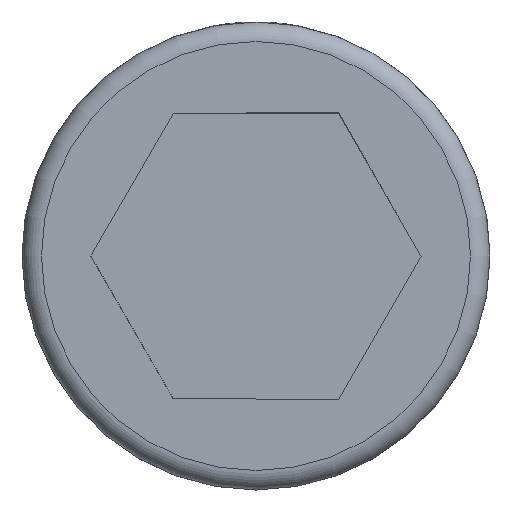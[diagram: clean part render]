
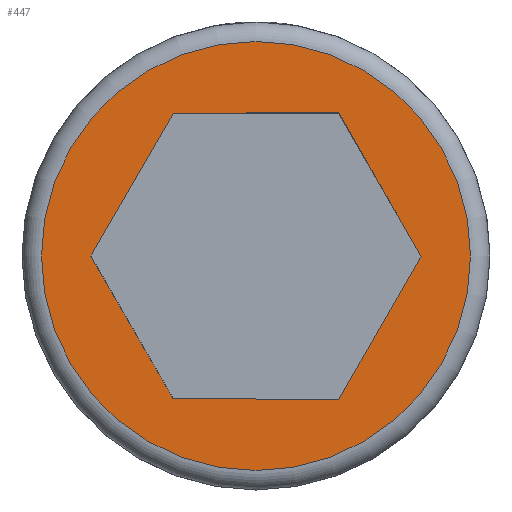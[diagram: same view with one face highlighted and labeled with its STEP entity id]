
A CAD part, left-side view. The second image highlights one B-rep face of the part: STEP entity #447.
In plain terms, the highlighted planar face has unit normal (-1, 0, 0).
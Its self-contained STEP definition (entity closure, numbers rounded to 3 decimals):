
#377=CARTESIAN_POINT('',(130.0,0.,16.5));
#378=VERTEX_POINT('',#377);
#379=CARTESIAN_POINT('',(130.0,0.0,0.0));
#380=DIRECTION('',(1.0,0.0,0.0));
#381=DIRECTION('',(0.0,0.0,-1.0));
#382=AXIS2_PLACEMENT_3D('',#379,#380,#381);
#383=CIRCLE('',#382,16.5);
#384=EDGE_CURVE('',#378,#378,#383,.T.);
#389=CARTESIAN_POINT('',(130.0,0.0,9.));
#390=DIRECTION('',(-1.0,0.0,0.0));
#391=DIRECTION('',(0.0,0.0,1.0));
#392=AXIS2_PLACEMENT_3D('',#389,#390,#391);
#393=PLANE('',#392);
#394=ORIENTED_EDGE('',*,*,#384,.F.);
#395=EDGE_LOOP('',(#394));
#396=FACE_OUTER_BOUND('',#395,.T.);
#397=CARTESIAN_POINT('',(130.0,-6.351,-11.0));
#398=VERTEX_POINT('',#397);
#399=CARTESIAN_POINT('',(130.0,6.351,-11.));
#400=VERTEX_POINT('',#399);
#401=CARTESIAN_POINT('',(130.0,-6.351,-11.0));
#402=DIRECTION('',(0.0,1.0,0.0));
#403=VECTOR('',#402,12.702);
#404=LINE('',#401,#403);
#405=EDGE_CURVE('',#398,#400,#404,.T.);
#406=ORIENTED_EDGE('',*,*,#405,.T.);
#407=CARTESIAN_POINT('',(130.0,12.702,0.));
#408=VERTEX_POINT('',#407);
#409=CARTESIAN_POINT('',(130.0,6.351,-11.));
#410=DIRECTION('',(0.0,0.5,0.866));
#411=VECTOR('',#410,12.702);
#412=LINE('',#409,#411);
#413=EDGE_CURVE('',#400,#408,#412,.T.);
#414=ORIENTED_EDGE('',*,*,#413,.T.);
#415=CARTESIAN_POINT('',(130.0,6.351,11.));
#416=VERTEX_POINT('',#415);
#417=CARTESIAN_POINT('',(130.0,12.702,0.));
#418=DIRECTION('',(0.0,-0.5,0.866));
#419=VECTOR('',#418,12.702);
#420=LINE('',#417,#419);
#421=EDGE_CURVE('',#408,#416,#420,.T.);
#422=ORIENTED_EDGE('',*,*,#421,.T.);
#423=CARTESIAN_POINT('',(130.0,-6.351,11.));
#424=VERTEX_POINT('',#423);
#425=CARTESIAN_POINT('',(130.0,6.351,11.));
#426=DIRECTION('',(0.0,-1.0,0.0));
#427=VECTOR('',#426,12.702);
#428=LINE('',#425,#427);
#429=EDGE_CURVE('',#416,#424,#428,.T.);
#430=ORIENTED_EDGE('',*,*,#429,.T.);
#431=CARTESIAN_POINT('',(130.0,-12.702,0.));
#432=VERTEX_POINT('',#431);
#433=CARTESIAN_POINT('',(130.0,-6.351,11.));
#434=DIRECTION('',(0.0,-0.5,-0.866));
#435=VECTOR('',#434,12.702);
#436=LINE('',#433,#435);
#437=EDGE_CURVE('',#424,#432,#436,.T.);
#438=ORIENTED_EDGE('',*,*,#437,.T.);
#439=CARTESIAN_POINT('',(130.0,-12.702,0.));
#440=DIRECTION('',(0.0,0.5,-0.866));
#441=VECTOR('',#440,12.702);
#442=LINE('',#439,#441);
#443=EDGE_CURVE('',#432,#398,#442,.T.);
#444=ORIENTED_EDGE('',*,*,#443,.T.);
#445=EDGE_LOOP('',(#406,#414,#422,#430,#438,#444));
#446=FACE_BOUND('',#445,.T.);
#447=ADVANCED_FACE('',(#396,#446),#393,.T.);
